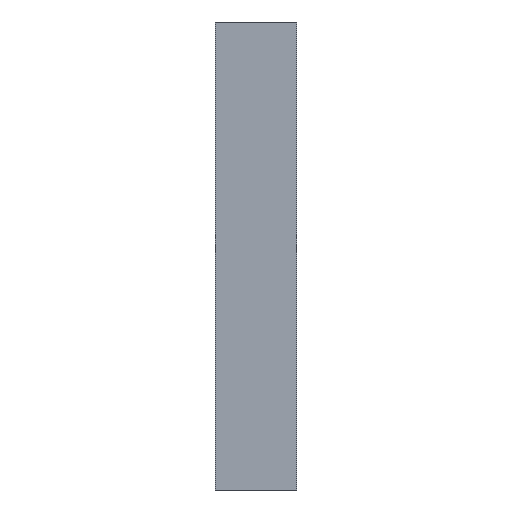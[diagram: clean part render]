
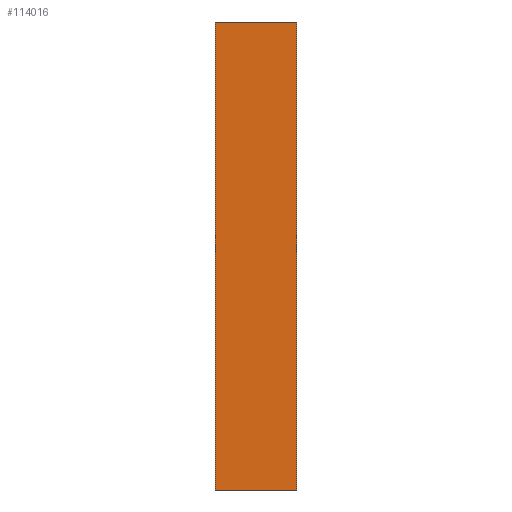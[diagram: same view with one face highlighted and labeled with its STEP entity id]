
A CAD part, front view. The second image highlights one B-rep face of the part: STEP entity #114016.
In plain terms, the highlighted planar face has unit normal (0, -1, 0).
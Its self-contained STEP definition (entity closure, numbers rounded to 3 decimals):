
#1=DIRECTION('',(1.,0.,0.));
#2=VECTOR('',#1,80.);
#3=CARTESIAN_POINT('',(-40.,94.9,69.93));
#4=LINE('',#3,#2);
#5=DIRECTION('',(0.,0.,-1.));
#6=VECTOR('',#5,460.);
#7=CARTESIAN_POINT('',(40.,94.9,69.93));
#8=LINE('',#7,#6);
#9=DIRECTION('',(-1.,0.,0.));
#10=VECTOR('',#9,80.);
#11=CARTESIAN_POINT('',(40.,94.9,-390.07));
#12=LINE('',#11,#10);
#13=DIRECTION('',(0.,0.,1.));
#14=VECTOR('',#13,460.);
#15=CARTESIAN_POINT('',(-40.,94.9,-390.07));
#16=LINE('',#15,#14);
#113875=CARTESIAN_POINT('',(-40.,94.9,69.93));
#113876=CARTESIAN_POINT('',(40.,94.9,69.93));
#113877=VERTEX_POINT('',#113875);
#113878=VERTEX_POINT('',#113876);
#113879=CARTESIAN_POINT('',(40.,94.9,-390.07));
#113880=VERTEX_POINT('',#113879);
#113881=CARTESIAN_POINT('',(-40.,94.9,-390.07));
#113882=VERTEX_POINT('',#113881);
#114001=CARTESIAN_POINT('',(0.,94.9,-0.07));
#114002=DIRECTION('',(0.,-1.,0.));
#114003=DIRECTION('',(0.,0.,-1.));
#114004=AXIS2_PLACEMENT_3D('',#114001,#114002,#114003);
#114005=PLANE('',#114004);
#114007=ORIENTED_EDGE('',*,*,#114006,.T.);
#114009=ORIENTED_EDGE('',*,*,#114008,.T.);
#114011=ORIENTED_EDGE('',*,*,#114010,.T.);
#114013=ORIENTED_EDGE('',*,*,#114012,.T.);
#114014=EDGE_LOOP('',(#114007,#114009,#114011,#114013));
#114015=FACE_OUTER_BOUND('',#114014,.F.);
#114016=ADVANCED_FACE('',(#114015),#114005,.T.);
#114006=EDGE_CURVE('',#113877,#113878,#4,.T.);
#114008=EDGE_CURVE('',#113878,#113880,#8,.T.);
#114010=EDGE_CURVE('',#113880,#113882,#12,.T.);
#114012=EDGE_CURVE('',#113882,#113877,#16,.T.);
